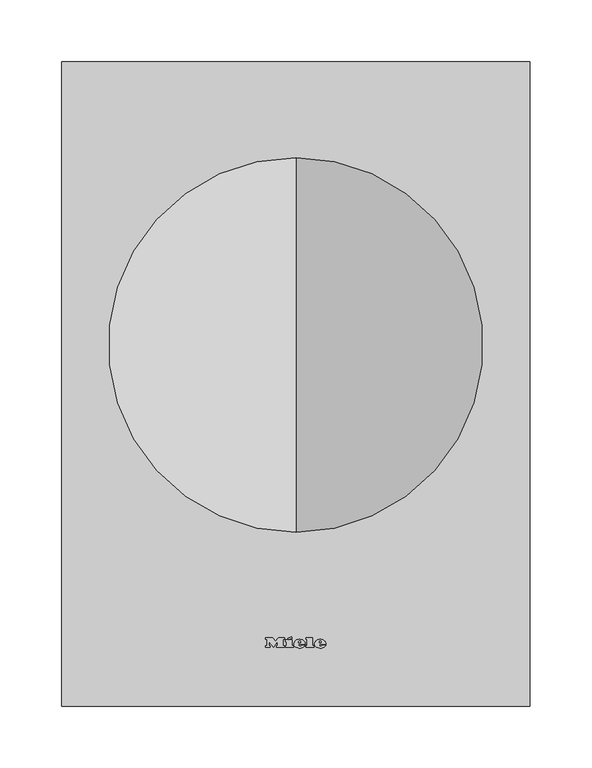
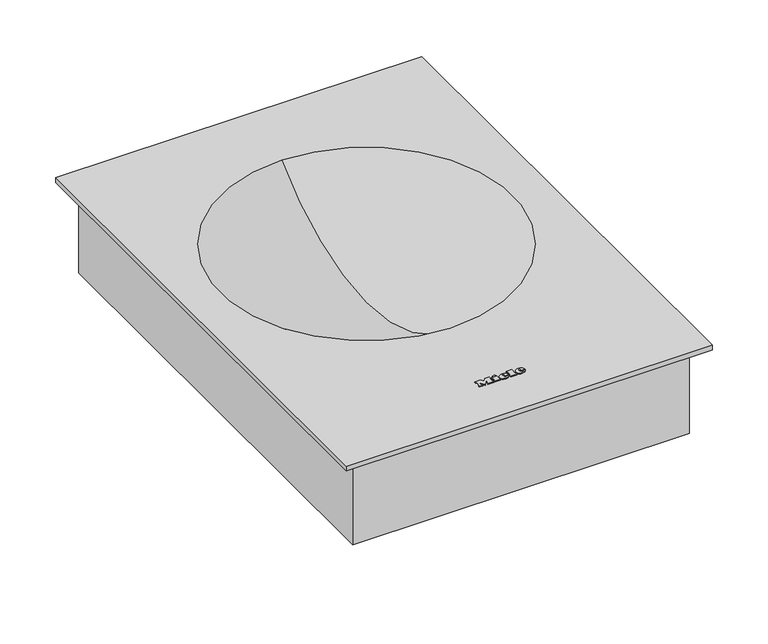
"""IFC4 building model written with IfcOpenShell, lengths in millimetres: proxy geometry, 11323230_NL_CS7641FL : 27764150_NL_11323230_CS7641FL."""

from ifc_helpers import new_model, si_unit, point, frame, frame_2d, origin, place, context, project, spatial, polyline, circle_curve, ellipse_curve, trimmed, segment, composite_curve, outline, extrude, faceted_brep, source, transform, mapped, element, save
from ifc_brep_helpers import plane_surface, cylinder_surface, revolved_surface, extruded_surface, advanced_brep


def specialty_equipment_f029ed66(model_context):
    return source(origin(), model_context, "Body", "SolidModel", [
        advanced_brep(
        [(19.06, 49.1959995, 6.3919765), (19.06, 50.0039992, 6.3925904), (24.412, 50.0039992, 6.3925904), (15.1, 50.0039992, 6.3925904), (17.3, 47.3, 6.390536), (24.276, 49.1959995, 6.3919765), (21.86, 49.1959995, 6.3919765), (19.956, 48.2999997, 6.3912958), (19.06, 51.0279989, 6.3933684), (19.06, 51.8999987, 6.3940309), (20.428, 51.8999987, 6.3940309), (20.428, 51.0279989, 6.3933684), (19.06, 49.1967592, 5.3919768), (19.956, 48.3007595, 5.3912961), (21.86, 49.1967592, 5.3919768), (24.276, 49.1967592, 5.3919768), (17.3, 47.3007598, 5.3905363), (15.1, 50.004759, 5.3925907), (24.412, 50.004759, 5.3925907), (19.06, 50.004759, 5.3925907), (19.06, 51.0287587, 5.3933687), (20.428, 51.0287587, 5.3933687), (20.428, 51.9007584, 5.3940312), (19.06, 51.9007584, 5.3940312)],
        [
            (0, 1),
            (1, 2),
            (2, 3, ellipse_curve(frame((19.756, 50.0039992, 6.3925904), z_axis=(0.0, -0.0007597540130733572, 0.9999997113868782), x_axis=(-1.0, 0.0, 0.0)), 4.656, 3.848)),
            (3, 4, circle_curve(frame((18.1960436, 50.2759991, 6.3927971), z_axis=(0.0, -0.0007597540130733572, 0.9999997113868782), x_axis=(0.0, -0.9999997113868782, -0.0007597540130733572)), 3.1079688)),
            (4, 5, circle_curve(frame((19.6627936, 52.3879985, 6.3944017), z_axis=(0.0, -0.0007597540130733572, 0.9999997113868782), x_axis=(0.0, -0.9999997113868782, -0.0007597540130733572)), 5.6098607)),
            (5, 6),
            (6, 7, circle_curve(frame((20.3470588, 49.9399992, 6.3925418), z_axis=(0.0, 0.0007597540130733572, -0.9999997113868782), x_axis=(0.0, -0.9999997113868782, -0.0007597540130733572)), 1.6859795)),
            (7, 0, circle_curve(frame((19.956, 49.1959995, 6.3919765), z_axis=(0.0, 0.0007597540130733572, -0.9999997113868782), x_axis=(0.0, -0.9999997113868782, -0.0007597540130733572)), 0.896)),
            (8, 9),
            (9, 10, circle_curve(frame((19.744, 51.8999987, 6.3940309), z_axis=(0.0, 0.0007597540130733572, -0.9999997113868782), x_axis=(0.0, -0.9999997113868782, -0.0007597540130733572)), 0.684)),
            (10, 11),
            (11, 8),
            (12, 13, circle_curve(frame((19.956, 49.1967592, 5.3919768), z_axis=(0.0, -0.0007597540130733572, 0.9999997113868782), x_axis=(0.0, -0.9999997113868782, -0.0007597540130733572)), 0.896)),
            (13, 14, circle_curve(frame((20.3470588, 49.940759, 5.3925421), z_axis=(0.0, -0.0007597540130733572, 0.9999997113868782), x_axis=(0.0, -0.9999997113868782, -0.0007597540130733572)), 1.6859795)),
            (14, 15),
            (15, 16, circle_curve(frame((19.6627936, 52.3887583, 5.394402), z_axis=(0.0, 0.0007597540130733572, -0.9999997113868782), x_axis=(0.0, -0.9999997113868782, -0.0007597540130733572)), 5.6098607)),
            (16, 17, circle_curve(frame((18.1960436, 50.2767589, 5.3927974), z_axis=(0.0, 0.0007597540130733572, -0.9999997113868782), x_axis=(0.0, -0.9999997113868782, -0.0007597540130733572)), 3.1079688)),
            (17, 18, ellipse_curve(frame((19.756, 50.004759, 5.3925907), z_axis=(0.0, 0.0007597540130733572, -0.9999997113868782), x_axis=(-1.0, 0.0, 0.0)), 4.656, 3.848)),
            (18, 19),
            (19, 12),
            (20, 21),
            (21, 22),
            (22, 23, circle_curve(frame((19.744, 51.9007584, 5.3940312), z_axis=(0.0, -0.0007597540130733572, 0.9999997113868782), x_axis=(0.0, -0.9999997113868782, -0.0007597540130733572)), 0.684)),
            (23, 20),
            (0, 12),
            (19, 1),
            (18, 2),
            (5, 15),
            (14, 6),
            (17, 3),
            (13, 7),
            (16, 4),
            (8, 20),
            (23, 9),
            (22, 10),
            (21, 11),
        ],
        [
            plane_surface(frame((19.06, 50.0039992, 6.3925904), z_axis=(0.0, -0.0007597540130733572, 0.9999997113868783), x_axis=(0.0, 0.9999997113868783, 0.0007597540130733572))),
            plane_surface(frame((19.06, 50.004759, 5.3925907), z_axis=(0.0, 0.0007597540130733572, -0.9999997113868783), x_axis=(0.0, -0.9999997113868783, -0.0007597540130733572))),
            plane_surface(frame((19.06, 49.1959995, 6.3919765), z_axis=(1.0, 0.0, 0.0), x_axis=(0.0, 0.0007597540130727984, -0.9999997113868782))),
            plane_surface(frame((19.06, 50.0039992, 6.3925904), z_axis=(0.0, -0.9999997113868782, -0.0007597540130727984), x_axis=(0.0, 0.0007597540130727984, -0.9999997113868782))),
            plane_surface(frame((24.276, 49.1959995, 6.3919765), z_axis=(0.0, 0.9999997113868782, 0.0007597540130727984), x_axis=(0.0, 0.0007597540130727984, -0.9999997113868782))),
            extruded_surface(trimmed(ellipse_curve(frame((19.756, 50.0055187, 4.392591), z_axis=(0.0, -0.0007597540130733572, 0.9999997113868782), x_axis=(-1.0, 0.0, 0.0)), 4.656, 3.848), [point((24.412, 50.0055187, 4.392591))], [point((15.1, 50.0055187, 4.392591))], True, "CARTESIAN"), (0.0, -0.0007597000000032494, 0.9999997), 0.9999999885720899),
            revolved_surface(polyline([(20.3470588, 48.25477998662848, 5.391261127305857), (20.3470588, 48.25402023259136, 6.391260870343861)]), (20.3470588, 49.940759, 5.3925421), (0.0, 0.0007597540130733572, -0.9999997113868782)),
            revolved_surface(polyline([(19.956, 48.30075945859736, 5.3912960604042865), (19.956, 48.29999970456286, 6.3912958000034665)]), (19.956, 49.1967592, 5.3919768), (0.0, 0.0007597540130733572, -0.9999997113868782)),
            cylinder_surface(frame((18.1960436, 50.2767589, 5.3927974), z_axis=(0.0, -0.0007597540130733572, 0.9999997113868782), x_axis=(0.0, -0.9999997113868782, -0.0007597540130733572)), 3.1079688),
            cylinder_surface(frame((19.6627936, 52.3887583, 5.394402), z_axis=(0.0, -0.0007597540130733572, 0.9999997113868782), x_axis=(0.0, -0.9999997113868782, -0.0007597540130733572)), 5.6098607),
            plane_surface(frame((19.06, 51.0279989, 6.3933684), z_axis=(1.0, 0.0, 0.0), x_axis=(0.0, 0.0007597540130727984, -0.9999997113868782))),
            revolved_surface(polyline([(19.744, 51.21675859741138, 5.393511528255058), (19.744, 51.215998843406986, 6.393511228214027)]), (19.744, 51.9007584, 5.3940312), (0.0, 0.0007597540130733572, -0.9999997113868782)),
            plane_surface(frame((20.428, 51.8999987, 6.3940309), z_axis=(-1.0, 0.0, 0.0), x_axis=(0.0, 0.0007597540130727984, -0.9999997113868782))),
            plane_surface(frame((20.428, 51.0279989, 6.3933684), z_axis=(0.0, 0.9999997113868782, 0.0007597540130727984), x_axis=(0.0, 0.0007597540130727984, -0.9999997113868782))),
        ],
        [
            (0, [[1, 2, 3, 4, 5, 6, 7, 8], [9, 10, 11, 12]]),
            (1, [[13, 14, 15, 16, 17, 18, 19, 20], [21, 22, 23, 24]]),
            (2, [[-1, 25, -20, 26]]),
            (3, [[-2, -26, -19, 27]]),
            (4, [[-6, 28, -15, 29]]),
            (5, [[-3, -27, -18, 30]]),
            (6, [[-7, -29, -14, 31]]),
            (7, [[-8, -31, -13, -25]]),
            (8, [[-4, -30, -17, 32]]),
            (9, [[-5, -32, -16, -28]]),
            (10, [[-9, 33, -24, 34]]),
            (11, [[-10, -34, -23, 35]]),
            (12, [[-11, -35, -22, 36]]),
            (13, [[-12, -36, -21, -33]]),
        ],
    ),
        advanced_brep(
        [(2.364, 49.1959995, 6.3919765), (2.364, 50.0039992, 6.3925904), (7.716, 50.0039992, 6.3925904), (-1.596, 50.0039992, 6.3925904), (0.604, 47.3, 6.390536), (7.58, 49.1959995, 6.3919765), (5.164, 49.1959995, 6.3919765), (3.26, 48.2999997, 6.3912958), (2.364, 51.0279989, 6.3933684), (2.364, 51.8999987, 6.3940309), (3.732, 51.8999987, 6.3940309), (3.732, 51.0279989, 6.3933684), (2.364, 49.1967592, 5.3919768), (3.26, 48.3007595, 5.3912961), (5.164, 49.1967592, 5.3919768), (7.58, 49.1967592, 5.3919768), (0.604, 47.3007598, 5.3905363), (-1.596, 50.004759, 5.3925907), (7.716, 50.004759, 5.3925907), (2.364, 50.004759, 5.3925907), (2.364, 51.0287587, 5.3933687), (3.732, 51.0287587, 5.3933687), (3.732, 51.9007584, 5.3940312), (2.364, 51.9007584, 5.3940312)],
        [
            (0, 1),
            (1, 2),
            (2, 3, ellipse_curve(frame((3.06, 50.0039992, 6.3925904), z_axis=(0.0, -0.0007597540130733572, 0.9999997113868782), x_axis=(-1.0, 0.0, 0.0)), 4.656, 3.848)),
            (3, 4, circle_curve(frame((1.5000436, 50.2759991, 6.3927971), z_axis=(0.0, -0.0007597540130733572, 0.9999997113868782), x_axis=(0.0, -0.9999997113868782, -0.0007597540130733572)), 3.1079688)),
            (4, 5, circle_curve(frame((2.9667936, 52.3879985, 6.3944017), z_axis=(0.0, -0.0007597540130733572, 0.9999997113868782), x_axis=(0.0, -0.9999997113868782, -0.0007597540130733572)), 5.6098607)),
            (5, 6),
            (6, 7, circle_curve(frame((3.6510588, 49.9399992, 6.3925418), z_axis=(0.0, 0.0007597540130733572, -0.9999997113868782), x_axis=(0.0, -0.9999997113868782, -0.0007597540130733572)), 1.6859795)),
            (7, 0, circle_curve(frame((3.26, 49.1959995, 6.3919765), z_axis=(0.0, 0.0007597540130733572, -0.9999997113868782), x_axis=(0.0, -0.9999997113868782, -0.0007597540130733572)), 0.896)),
            (8, 9),
            (9, 10, circle_curve(frame((3.048, 51.8999987, 6.3940309), z_axis=(0.0, 0.0007597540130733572, -0.9999997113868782), x_axis=(0.0, -0.9999997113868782, -0.0007597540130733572)), 0.684)),
            (10, 11),
            (11, 8),
            (12, 13, circle_curve(frame((3.26, 49.1967592, 5.3919768), z_axis=(0.0, -0.0007597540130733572, 0.9999997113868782), x_axis=(0.0, -0.9999997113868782, -0.0007597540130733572)), 0.896)),
            (13, 14, circle_curve(frame((3.6510588, 49.940759, 5.3925421), z_axis=(0.0, -0.0007597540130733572, 0.9999997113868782), x_axis=(0.0, -0.9999997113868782, -0.0007597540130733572)), 1.6859795)),
            (14, 15),
            (15, 16, circle_curve(frame((2.9667936, 52.3887583, 5.394402), z_axis=(0.0, 0.0007597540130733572, -0.9999997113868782), x_axis=(0.0, -0.9999997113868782, -0.0007597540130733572)), 5.6098607)),
            (16, 17, circle_curve(frame((1.5000436, 50.2767589, 5.3927974), z_axis=(0.0, 0.0007597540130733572, -0.9999997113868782), x_axis=(0.0, -0.9999997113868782, -0.0007597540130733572)), 3.1079688)),
            (17, 18, ellipse_curve(frame((3.06, 50.004759, 5.3925907), z_axis=(0.0, 0.0007597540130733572, -0.9999997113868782), x_axis=(-1.0, 0.0, 0.0)), 4.656, 3.848)),
            (18, 19),
            (19, 12),
            (20, 21),
            (21, 22),
            (22, 23, circle_curve(frame((3.048, 51.9007584, 5.3940312), z_axis=(0.0, -0.0007597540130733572, 0.9999997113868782), x_axis=(0.0, -0.9999997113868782, -0.0007597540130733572)), 0.684)),
            (23, 20),
            (0, 12),
            (19, 1),
            (18, 2),
            (5, 15),
            (14, 6),
            (17, 3),
            (13, 7),
            (16, 4),
            (8, 20),
            (23, 9),
            (22, 10),
            (21, 11),
        ],
        [
            plane_surface(frame((2.364, 50.0039992, 6.3925904), z_axis=(0.0, -0.0007597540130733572, 0.9999997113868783), x_axis=(0.0, 0.9999997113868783, 0.0007597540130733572))),
            plane_surface(frame((2.364, 50.004759, 5.3925907), z_axis=(0.0, 0.0007597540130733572, -0.9999997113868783), x_axis=(0.0, -0.9999997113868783, -0.0007597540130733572))),
            plane_surface(frame((2.364, 49.1959995, 6.3919765), z_axis=(1.0, 0.0, 0.0), x_axis=(0.0, 0.0007597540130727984, -0.9999997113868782))),
            plane_surface(frame((2.364, 50.0039992, 6.3925904), z_axis=(0.0, -0.9999997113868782, -0.0007597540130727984), x_axis=(0.0, 0.0007597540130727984, -0.9999997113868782))),
            plane_surface(frame((7.58, 49.1959995, 6.3919765), z_axis=(0.0, 0.9999997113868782, 0.0007597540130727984), x_axis=(0.0, 0.0007597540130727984, -0.9999997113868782))),
            extruded_surface(trimmed(ellipse_curve(frame((3.06, 50.0055187, 4.392591), z_axis=(0.0, -0.0007597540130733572, 0.9999997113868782), x_axis=(-1.0, 0.0, 0.0)), 4.656, 3.848), [point((7.716, 50.0055187, 4.392591))], [point((-1.596, 50.0055187, 4.392591))], True, "CARTESIAN"), (0.0, -0.0007597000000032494, 0.9999997), 0.9999999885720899),
            revolved_surface(polyline([(3.6510588, 48.25477998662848, 5.391261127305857), (3.6510588, 48.25402023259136, 6.391260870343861)]), (3.6510588, 49.940759, 5.3925421), (0.0, 0.0007597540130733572, -0.9999997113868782)),
            revolved_surface(polyline([(3.26, 48.30075945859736, 5.3912960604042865), (3.26, 48.29999970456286, 6.3912958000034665)]), (3.26, 49.1967592, 5.3919768), (0.0, 0.0007597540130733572, -0.9999997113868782)),
            cylinder_surface(frame((1.5000436, 50.2767589, 5.3927974), z_axis=(0.0, -0.0007597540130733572, 0.9999997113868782), x_axis=(0.0, -0.9999997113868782, -0.0007597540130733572)), 3.1079688),
            cylinder_surface(frame((2.9667936, 52.3887583, 5.394402), z_axis=(0.0, -0.0007597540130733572, 0.9999997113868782), x_axis=(0.0, -0.9999997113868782, -0.0007597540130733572)), 5.6098607),
            plane_surface(frame((2.364, 51.0279989, 6.3933684), z_axis=(1.0, 0.0, 0.0), x_axis=(0.0, 0.0007597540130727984, -0.9999997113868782))),
            revolved_surface(polyline([(3.048, 51.21675859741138, 5.393511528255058), (3.048, 51.215998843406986, 6.393511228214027)]), (3.048, 51.9007584, 5.3940312), (0.0, 0.0007597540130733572, -0.9999997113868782)),
            plane_surface(frame((3.732, 51.8999987, 6.3940309), z_axis=(-1.0, 0.0, 0.0), x_axis=(0.0, 0.0007597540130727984, -0.9999997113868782))),
            plane_surface(frame((3.732, 51.0279989, 6.3933684), z_axis=(0.0, 0.9999997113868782, 0.0007597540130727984), x_axis=(0.0, 0.0007597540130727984, -0.9999997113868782))),
        ],
        [
            (0, [[1, 2, 3, 4, 5, 6, 7, 8], [9, 10, 11, 12]]),
            (1, [[13, 14, 15, 16, 17, 18, 19, 20], [21, 22, 23, 24]]),
            (2, [[-1, 25, -20, 26]]),
            (3, [[-2, -26, -19, 27]]),
            (4, [[-6, 28, -15, 29]]),
            (5, [[-3, -27, -18, 30]]),
            (6, [[-7, -29, -14, 31]]),
            (7, [[-8, -31, -13, -25]]),
            (8, [[-4, -30, -17, 32]]),
            (9, [[-5, -32, -16, -28]]),
            (10, [[-9, 33, -24, 34]]),
            (11, [[-10, -34, -23, 35]]),
            (12, [[-11, -35, -22, 36]]),
            (13, [[-12, -36, -21, -33]]),
        ],
    ),
        extrude(outline(polyline([(0.0, 0.0), (-0.0109086, -2.9993294), (-1.4390415, -2.9920868), (-1.4315306, 0.0), (0.0, 0.0)])), frame((-6.38, 54.8287576, 5.3962558), z_axis=(0.0, -0.0007597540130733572, 0.9999997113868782), x_axis=(-0.42472021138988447, 0.9053243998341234, 0.0006878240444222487)), (0.0, 0.0, 1.0), 1.0),
        extrude(outline(polyline([(-0.4933908, 2.4141097), (-2.7800844, -2.4601583), (-7.0459742, -0.4588767), (-7.4401145, -1.2990179), (-8.6568709, -0.728194), (-5.9760369, 4.9862153), (-4.7592806, 4.4153913), (-5.1636142, 3.5535222), (-2.1941494, 2.16044), (-1.7898157, 3.022309), (-0.4933908, 2.4141097)])), frame((-6.38, 54.8287576, 5.3962558), z_axis=(0.0, -0.0007597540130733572, 0.9999997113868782), x_axis=(-0.42472021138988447, 0.9053243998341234, 0.0006878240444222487)), (0.0, 0.0, 1.0), 1.0),
        extrude(outline(polyline([(0.0, 0.0), (0.0, -1.304), (-5.504, -1.304), (-5.504, 5.3519999), (-6.488, 5.3519999), (-6.488, 6.6959999), (0.0, 6.6959999), (0.0, 5.3519999), (-0.96, 5.3519999), (-0.96, 0.0), (0.0, 0.0)])), frame((8.164, 53.9967578, 5.3956236), z_axis=(0.0, -0.0007597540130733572, 0.9999997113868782), x_axis=(-1.0, 0.0, 0.0)), (0.0, 0.0, 1.0), 1.0),
        extrude(outline(polyline([(0.0, 0.0), (0.0, -1.304), (-5.576, -1.304), (-7.92, 1.696), (-10.256, -1.304), (-15.128, -1.304), (-15.128, 0.0), (-14.112, 0.0), (-14.112, 5.3519999), (-15.128, 5.3519999), (-15.128, 6.6959999), (-8.744, 6.6959999), (-8.744, 5.3519999), (-9.728, 5.3519999), (-9.728, 1.8807776), (-6.136, 6.6959999), (-2.56, 1.9488753), (-2.56, 5.3519999), (-3.52, 5.3519999), (-3.52, 6.6959999), (0.0, 6.6959999), (0.0, 5.3519999), (-0.968, 5.3519999), (-0.968, 0.0), (0.0, 0.0)])), frame((-24.3, 53.9967578, 5.3956236), z_axis=(0.0, -0.0007597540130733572, 0.9999997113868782), x_axis=(-1.0, 0.0, 0.0)), (0.0, 0.0, 1.0), 1.0),
        extrude(outline(polyline([(-114.0, 107.5), (-114.0, 477.7), (114.0, 477.7), (114.0, 450.1), (153.5, 450.1), (153.5, 200.1), (114.0, 200.1), (114.0, 107.5), (-114.0, 107.5)])), frame((0.0, 0.0, -127.5), z_axis=(0.0, 0.0, 1.0), x_axis=(1.0, 0.0, 0.0)), (0.0, 0.0, 1.0), 32.5),
        advanced_brep(
        [(189.0, 520.0, 5.4), (-189.0, 520.0, 5.4), (-189.0, 0.0, 5.4), (189.0, 0.0, 5.4), (0.0, 140.3568559, 5.4), (0.0, 442.6431441, 5.4), (189.0, 520.0, 0.0), (189.0, 0.0, 0.0), (-189.0, 0.0, 0.0), (-189.0, 520.0, 0.0), (165.0, 131.0, 0.0), (165.0, 452.0, 0.0), (-165.0, 452.0, 0.0), (-165.0, 131.0, 0.0), (165.0, 131.0, -65.0), (165.0, 452.0, -65.0), (-165.0, 452.0, -65.0), (-165.0, 131.0, -65.0), (0.0, 291.5, -58.5)],
        [
            (0, 1),
            (1, 2),
            (2, 3),
            (3, 0),
            (4, 5, circle_curve(frame((0.0, 291.5, 5.4), z_axis=(0.0, 0.0, -1.0), x_axis=(0.0, -1.0, 0.0)), 151.1431441)),
            (5, 4, circle_curve(frame((0.0, 291.5, 5.4), z_axis=(0.0, 0.0, -1.0), x_axis=(0.0, -1.0, 0.0)), 151.1431441)),
            (6, 7),
            (7, 8),
            (8, 9),
            (9, 6),
            (10, 11),
            (11, 12),
            (12, 13),
            (13, 10),
            (0, 6),
            (9, 1),
            (8, 2),
            (7, 3),
            (14, 15),
            (15, 11),
            (10, 14),
            (16, 17),
            (17, 13),
            (12, 16),
            (15, 16),
            (17, 14),
            (18, 5, circle_curve(frame((0.0, 291.5, 152.2), z_axis=(1.0, 0.0, 0.0), x_axis=(0.0, -1.0, 0.0)), 210.7)),
            (4, 18, circle_curve(frame((0.0, 291.5, 152.2), z_axis=(1.0, 0.0, 0.0), x_axis=(0.0, 1.0, 0.0)), 210.7)),
        ],
        [
            plane_surface(frame((-189.0, 520.0, 5.4), z_axis=(0.0, 0.0, 1.0), x_axis=(-1.0, 0.0, 0.0))),
            plane_surface(frame((-189.0, 520.0, 0.0), z_axis=(0.0, 0.0, -1.0), x_axis=(1.0, 0.0, 0.0))),
            plane_surface(frame((189.0, 520.0, 5.4), z_axis=(0.0, 1.0, 0.0), x_axis=(0.0, 0.0, -1.0))),
            plane_surface(frame((-189.0, 520.0, 5.4), z_axis=(-1.0, 0.0, 0.0), x_axis=(0.0, 0.0, -1.0))),
            plane_surface(frame((-189.0, 0.0, 5.4), z_axis=(0.0, -1.0, 0.0), x_axis=(0.0, 0.0, -1.0))),
            plane_surface(frame((189.0, 0.0, 5.4), z_axis=(1.0, 0.0, 0.0), x_axis=(0.0, 0.0, -1.0))),
            plane_surface(frame((165.0, 452.0, -65.0), z_axis=(1.0, 0.0, 0.0), x_axis=(0.0, 0.0, 1.0))),
            plane_surface(frame((-165.0, 452.0, -65.0), z_axis=(-1.0, 0.0, 0.0), x_axis=(0.0, 0.0, -1.0))),
            plane_surface(frame((165.0, 452.0, -65.0), z_axis=(0.0, 1.0, 0.0), x_axis=(-1.0, 0.0, 0.0))),
            plane_surface(frame((165.0, 131.0, 5.4), z_axis=(0.0, -1.0, 0.0), x_axis=(-1.0, 0.0, 0.0))),
            plane_surface(frame((165.0, 131.0, -65.0), z_axis=(0.0, 0.0, -1.0), x_axis=(-1.0, 0.0, 0.0))),
            revolved_surface(trimmed(ellipse_curve(frame((0.0, 291.5, 152.2), z_axis=(-1.0, 0.0, 0.0), x_axis=(0.0, 1.0, 0.0)), 210.7, 210.7), [point((0.0, 291.5, -58.5))], [point((0.0, 291.5, 362.9))], True, "CARTESIAN"), (0.0, 291.5, 158.1044717), (0.0, 0.0, -1.0)),
        ],
        [
            (0, [[1, 2, 3, 4], [5, 6]]),
            (1, [[7, 8, 9, 10], [11, 12, 13, 14]]),
            (2, [[-1, 15, -10, 16]]),
            (3, [[-2, -16, -9, 17]]),
            (4, [[-3, -17, -8, 18]]),
            (5, [[-4, -18, -7, -15]]),
            (6, [[19, 20, -11, 21]]),
            (7, [[22, 23, -13, 24]]),
            (8, [[25, -24, -12, -20]]),
            (9, [[26, -21, -14, -23]]),
            (10, [[-19, -26, -22, -25]]),
            (11, [[27, -5, 28]]),
            (11, [[-27, -28, -6]]),
        ],
    ),
        faceted_brep([(174.0, 505.0, -95.0), (174.0, 15.0, -95.0), (-174.0, 15.0, -95.0), (-174.0, 505.0, -95.0), (174.0, 505.0, 0.0), (-174.0, 505.0, 0.0), (-174.0, 15.0, 0.0), (174.0, 15.0, 0.0), (165.0, 452.0, 0.0), (165.0, 131.0, 0.0), (-165.0, 131.0, 0.0), (-165.0, 452.0, 0.0), (165.0, 452.0, -66.0), (165.0, 131.0, -66.0), (-165.0, 131.0, -66.0), (-165.0, 452.0, -66.0)], [[[0, 1, 2, 3]], [[4, 5, 6, 7], [8, 9, 10, 11]], [[0, 3, 5, 4]], [[3, 2, 6, 5]], [[2, 1, 7, 6]], [[1, 0, 4, 7]], [[12, 13, 9, 8]], [[14, 15, 11, 10]], [[15, 12, 8, 11]], [[13, 14, 10, 9]], [[13, 12, 15, 14]]]),
        extrude(outline(polyline([(447.3772603, -108.0), (440.0, -108.0), (440.0, -106.7442961), (446.1215564, -106.7442961), (446.1215564, -103.4480734), (440.470889, -103.4480734), (440.470889, -102.1923696), (446.1215564, -102.1923696), (446.1215564, -99.2100729), (440.156963, -99.2100729), (440.156963, -97.954369), (447.3772603, -97.954369), (447.3772603, -108.0)])), frame((-145.0, 0.0, 0.0), z_axis=(1.0, 0.0, 0.0), x_axis=(0.0, 1.0, 0.0)), (0.0, 0.0, 1.0), 1.0),
        extrude(outline(polyline([(438.1164442, -108.0), (431.8379248, -108.0), (431.8379248, -106.7442961), (436.8607403, -106.7442961), (436.8607403, -97.954369), (438.1164442, -97.954369), (438.1164442, -108.0)])), frame((-145.0, 0.0, 0.0), z_axis=(1.0, 0.0, 0.0), x_axis=(0.0, 1.0, 0.0)), (0.0, 0.0, 1.0), 1.0),
        extrude(outline(composite_curve([segment(trimmed(circle_curve(frame_2d((440.0, -103.0)), 8.0), [point((448.0, -103.0))], [point((432.0, -103.0))], False, "CARTESIAN"), True, "CONTINUOUS"), segment(trimmed(circle_curve(frame_2d((440.0, -103.0)), 8.0), [point((432.0, -103.0))], [point((448.0, -103.0))], False, "CARTESIAN"), True, "CONTINUOUS")], self_intersect=False)), frame((-144.0, 0.0, 0.0), z_axis=(1.0, 0.0, 0.0), x_axis=(0.0, 1.0, 0.0)), (0.0, 0.0, 1.0), 30.0),
    ])


if __name__ == "__main__":
    model = new_model("IFC4")
    model_context = context("Model", 3, world=origin())
    ifc_project = project(units=[si_unit("LENGTHUNIT", "METRE", prefix="MILLI")], contexts=[model_context])
    site = spatial("IfcSite", under=ifc_project)
    building = spatial("IfcBuilding", under=site)
    placement = place(None, origin())
    specialty_equipment_shape = specialty_equipment_f029ed66(model_context)
    element("IfcBuildingElementProxy", 1, Name="11323230_NL_CS7641FL : 27764150_NL_11323230_CS7641FL", ObjectType="11323230_NL_CS7641FL : 27764150_NL_11323230_CS7641FL", at=placement, inside=building, context=model_context, shape_type="MappedRepresentation", body=[
        mapped(specialty_equipment_shape, transform((0.0, 0.0, 0.0), x_axis=(1.0, 0.0, 0.0), y_axis=(0.0, 1.0, 0.0), z_axis=(0.0, 0.0, 1.0))),
    ])
    save(model, "model.ifc")
